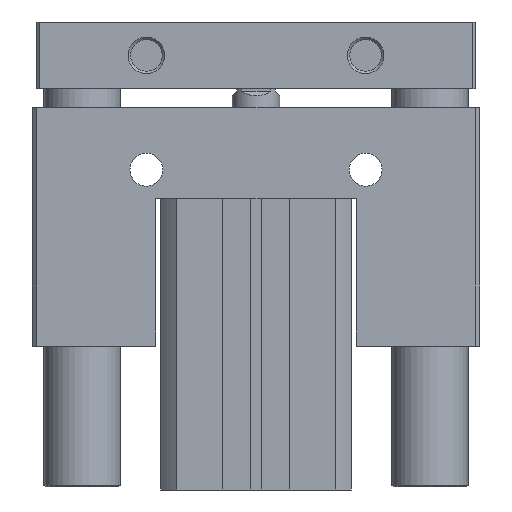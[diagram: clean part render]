
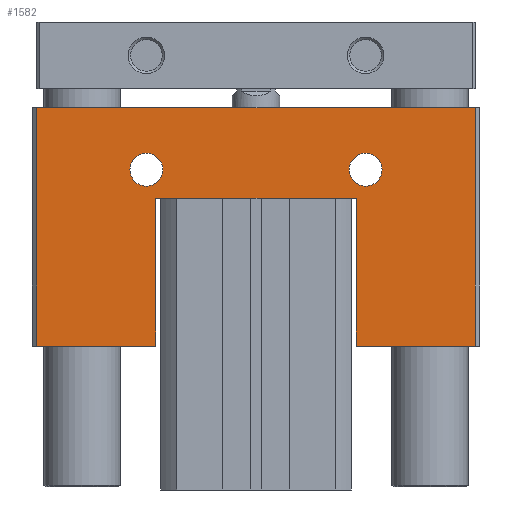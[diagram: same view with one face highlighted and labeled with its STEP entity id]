
A CAD part, front view. The second image highlights one B-rep face of the part: STEP entity #1582.
In plain terms, the highlighted planar face has unit normal (0, -1, 0).
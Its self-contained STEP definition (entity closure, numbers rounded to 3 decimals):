
#1311=CARTESIAN_POINT('',(-48.524,-18.716,80.2));
#1312=VERTEX_POINT('',#1311);
#1319=CARTESIAN_POINT('',(43.476,-18.716,80.2));
#1320=VERTEX_POINT('',#1319);
#1321=CARTESIAN_POINT('',(-48.524,-18.716,80.2));
#1322=DIRECTION('',(1.0,0.0,0.0));
#1323=VECTOR('',#1322,92.);
#1324=LINE('',#1321,#1323);
#1325=EDGE_CURVE('',#1312,#1320,#1324,.T.);
#1488=CARTESIAN_POINT('',(-48.524,-18.716,30.2));
#1489=VERTEX_POINT('',#1488);
#1496=CARTESIAN_POINT('',(-48.524,-18.716,30.2));
#1497=DIRECTION('',(0.0,0.0,1.0));
#1498=VECTOR('',#1497,50.);
#1499=LINE('',#1496,#1498);
#1500=EDGE_CURVE('',#1489,#1312,#1499,.T.);
#1505=CARTESIAN_POINT('',(-2.524,-18.716,57.237));
#1506=DIRECTION('',(0.0,1.0,0.0));
#1507=DIRECTION('',(0.0,0.0,1.0));
#1508=AXIS2_PLACEMENT_3D('',#1505,#1506,#1507);
#1509=PLANE('',#1508);
#1510=ORIENTED_EDGE('',*,*,#1500,.F.);
#1511=CARTESIAN_POINT('',(-23.524,-18.716,30.2));
#1512=VERTEX_POINT('',#1511);
#1513=CARTESIAN_POINT('',(-23.524,-18.716,30.2));
#1514=DIRECTION('',(-1.0,0.0,0.0));
#1515=VECTOR('',#1514,25.);
#1516=LINE('',#1513,#1515);
#1517=EDGE_CURVE('',#1512,#1489,#1516,.T.);
#1518=ORIENTED_EDGE('',*,*,#1517,.F.);
#1519=CARTESIAN_POINT('',(-23.524,-18.716,61.2));
#1520=VERTEX_POINT('',#1519);
#1521=CARTESIAN_POINT('',(-23.524,-18.716,61.2));
#1522=DIRECTION('',(0.0,0.0,-1.0));
#1523=VECTOR('',#1522,31.);
#1524=LINE('',#1521,#1523);
#1525=EDGE_CURVE('',#1520,#1512,#1524,.T.);
#1526=ORIENTED_EDGE('',*,*,#1525,.F.);
#1527=CARTESIAN_POINT('',(18.476,-18.716,61.2));
#1528=VERTEX_POINT('',#1527);
#1529=CARTESIAN_POINT('',(18.476,-18.716,61.2));
#1530=DIRECTION('',(-1.0,0.0,0.0));
#1531=VECTOR('',#1530,42.);
#1532=LINE('',#1529,#1531);
#1533=EDGE_CURVE('',#1528,#1520,#1532,.T.);
#1534=ORIENTED_EDGE('',*,*,#1533,.F.);
#1535=CARTESIAN_POINT('',(18.476,-18.716,30.2));
#1536=VERTEX_POINT('',#1535);
#1537=CARTESIAN_POINT('',(18.476,-18.716,30.2));
#1538=DIRECTION('',(0.0,0.0,1.0));
#1539=VECTOR('',#1538,31.);
#1540=LINE('',#1537,#1539);
#1541=EDGE_CURVE('',#1536,#1528,#1540,.T.);
#1542=ORIENTED_EDGE('',*,*,#1541,.F.);
#1543=CARTESIAN_POINT('',(43.476,-18.716,30.2));
#1544=VERTEX_POINT('',#1543);
#1545=CARTESIAN_POINT('',(43.476,-18.716,30.2));
#1546=DIRECTION('',(-1.0,0.0,0.0));
#1547=VECTOR('',#1546,25.);
#1548=LINE('',#1545,#1547);
#1549=EDGE_CURVE('',#1544,#1536,#1548,.T.);
#1550=ORIENTED_EDGE('',*,*,#1549,.F.);
#1551=CARTESIAN_POINT('',(43.476,-18.716,80.2));
#1552=DIRECTION('',(0.0,0.0,-1.0));
#1553=VECTOR('',#1552,50.);
#1554=LINE('',#1551,#1553);
#1555=EDGE_CURVE('',#1320,#1544,#1554,.T.);
#1556=ORIENTED_EDGE('',*,*,#1555,.F.);
#1557=ORIENTED_EDGE('',*,*,#1325,.F.);
#1558=EDGE_LOOP('',(#1510,#1518,#1526,#1534,#1542,#1550,#1556,#1557));
#1559=FACE_OUTER_BOUND('',#1558,.T.);
#1560=CARTESIAN_POINT('',(-28.974,-18.716,67.2));
#1561=VERTEX_POINT('',#1560);
#1562=CARTESIAN_POINT('',(-25.524,-18.716,67.2));
#1563=DIRECTION('',(0.0,1.0,0.0));
#1564=DIRECTION('',(1.0,0.0,0.0));
#1565=AXIS2_PLACEMENT_3D('',#1562,#1563,#1564);
#1566=CIRCLE('',#1565,3.45);
#1567=EDGE_CURVE('',#1561,#1561,#1566,.T.);
#1568=ORIENTED_EDGE('',*,*,#1567,.T.);
#1569=EDGE_LOOP('',(#1568));
#1570=FACE_BOUND('',#1569,.T.);
#1571=CARTESIAN_POINT('',(17.026,-18.716,67.2));
#1572=VERTEX_POINT('',#1571);
#1573=CARTESIAN_POINT('',(20.476,-18.716,67.2));
#1574=DIRECTION('',(0.0,1.0,0.0));
#1575=DIRECTION('',(1.0,0.0,0.0));
#1576=AXIS2_PLACEMENT_3D('',#1573,#1574,#1575);
#1577=CIRCLE('',#1576,3.45);
#1578=EDGE_CURVE('',#1572,#1572,#1577,.T.);
#1579=ORIENTED_EDGE('',*,*,#1578,.T.);
#1580=EDGE_LOOP('',(#1579));
#1581=FACE_BOUND('',#1580,.T.);
#1582=ADVANCED_FACE('',(#1559,#1570,#1581),#1509,.F.);
